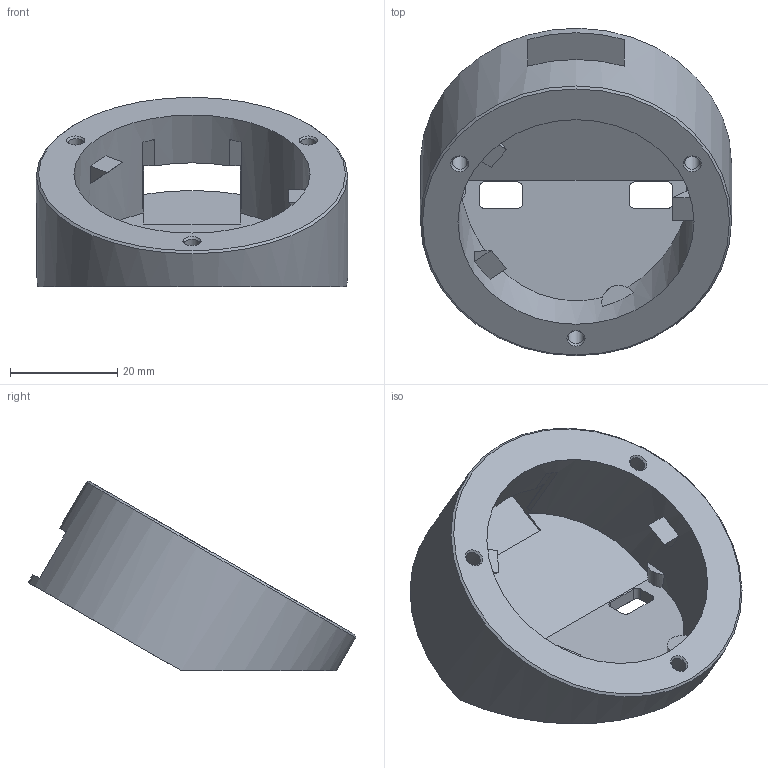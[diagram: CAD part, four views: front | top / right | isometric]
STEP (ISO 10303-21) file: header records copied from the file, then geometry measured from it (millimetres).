
FILE_DESCRIPTION(('Open CASCADE Model'),'2;1');
FILE_NAME('Open CASCADE Shape Model','2026-11-10T13:49:22',('Author'),( 'Open CASCADE'),'Open CASCADE STEP processor 7.9','Open CASCADE 7.9' ,'Unknown');
FILE_SCHEMA(('AUTOMOTIVE_DESIGN { 1 0 10303 214 1 1 1 1 }'));
Length unit declared in the file: millimetre
Products named in the file (2): puck-body-model; puck-body
Assembly tree (1 placements, depth 2):
  puck-body-model
    puck-body
Bounding box: 58 x 61.02 x 35.3 mm (x, y, z)
Volume: 22513.5 mm3; surface area: 11513.8 mm2
Topology: 1 solids, 1 shells, 70 faces, 176 edges, 116 vertices
Faces by surface type: plane 47, cylinder 19, cone 4
Full cylindrical faces by diameter (mm): 2.8 x6, 44 x1, 58 x1
Entity records: 4699 total; most frequent: CARTESIAN_POINT 1242, DIRECTION 610, ORIENTED_EDGE 352, PCURVE 352, DEFINITIONAL_REPRESENTATION 352, LINE 286, VECTOR 286, EDGE_CURVE 176
